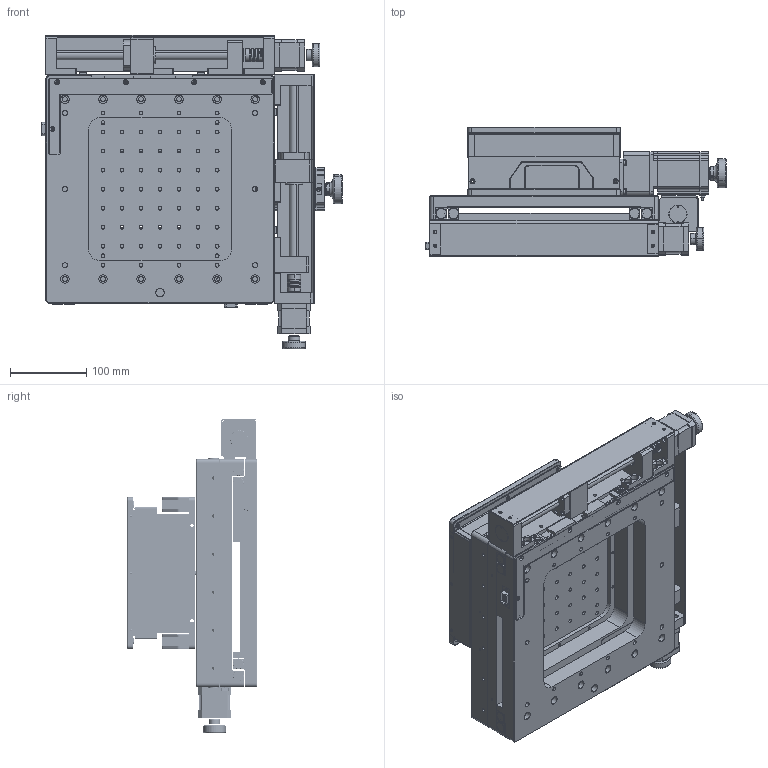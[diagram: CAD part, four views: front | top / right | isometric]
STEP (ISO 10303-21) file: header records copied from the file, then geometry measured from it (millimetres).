
FILE_DESCRIPTION (( 'STEP AP203' ), '1' );
FILE_NAME ('XYZ三轴调节台.STEP', '2023-07-26T07:02:51', ( '' ), ( '' ), 'SwSTEP 2.0', 'SolidWorks 2016', '' );
FILE_SCHEMA (( 'CONFIG_CONTROL_DESIGN' ));
Length unit declared in the file: millimetre
Products named in the file (1): XYZ三轴调节台
Bounding box: 395 x 170 x 412.5 mm (x, y, z)
Surface area: 1179473.6 mm2 (no closed solid volume)
Topology: 0 solids, 98 shells, 2094 faces, 7554 edges, 5486 vertices
Faces by surface type: cylinder 1079, plane 817, torus 99, cone 83, sphere 14, bspline 2
Entity records: 85821 total; most frequent: CARTESIAN_POINT 19420, DIRECTION 14497, ORIENTED_EDGE 11968, EDGE_CURVE 7512, AXIS2_PLACEMENT_3D 5479, VERTEX_POINT 5458, LINE 3539, VECTOR 3539
